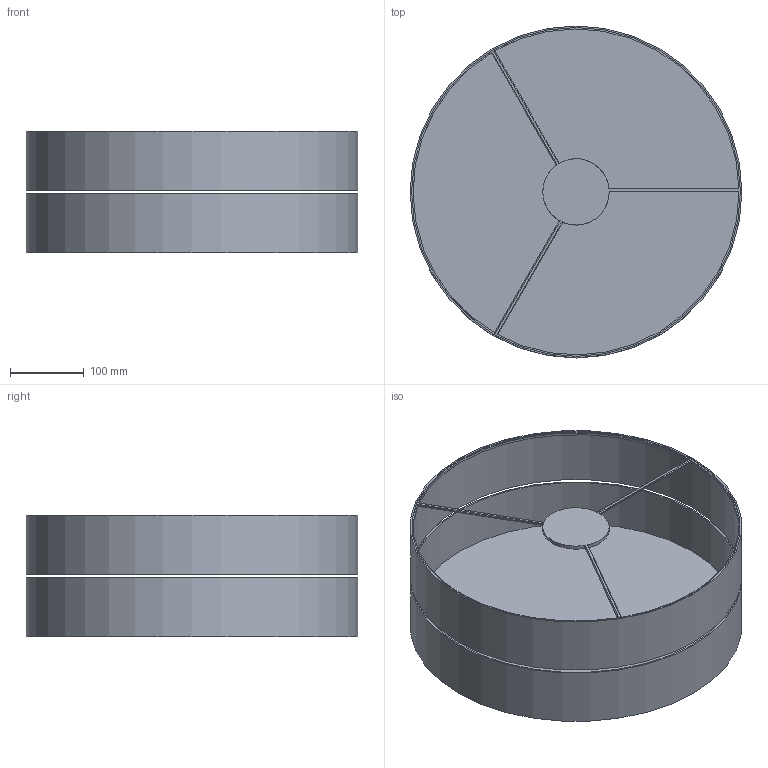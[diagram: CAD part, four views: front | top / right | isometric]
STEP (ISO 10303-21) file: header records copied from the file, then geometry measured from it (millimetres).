
FILE_DESCRIPTION(/* description */ (''),/* implementation_level */ '2;1');
FILE_NAME(/* name */ 'D:\TK Lighting\2021\_Hilton\Hilton 4180.stp',/* time_stamp */ '2021-04-02T12:21:21+02:00',/* author */ ('Admin'),/* organization */ (''),/* preprocessor_version */ 'ST-DEVELOPER v16.5',/* originating_system */ 'Autodesk Inventor 2017',/* authorisation */ '');
FILE_SCHEMA (('AUTOMOTIVE_DESIGN { 1 0 10303 214 3 1 1 }'));
Length unit declared in the file: millimetre
Products named in the file (1): Hilton 4180
Bounding box: 450 x 450 x 165 mm (x, y, z)
Volume: 810482.9 mm3; surface area: 798433.7 mm2
Topology: 2 solids, 2 shells, 42 faces, 106 edges, 70 vertices
Faces by surface type: cylinder 26, plane 16
Full cylindrical faces by diameter (mm): 90 x1, 446 x4, 450 x2
Entity records: 1453 total; most frequent: CARTESIAN_POINT 415, ORIENTED_EDGE 194, DIRECTION 187, EDGE_CURVE 97, AXIS2_PLACEMENT_3D 71, VERTEX_POINT 69, EDGE_LOOP 56, LINE 45
